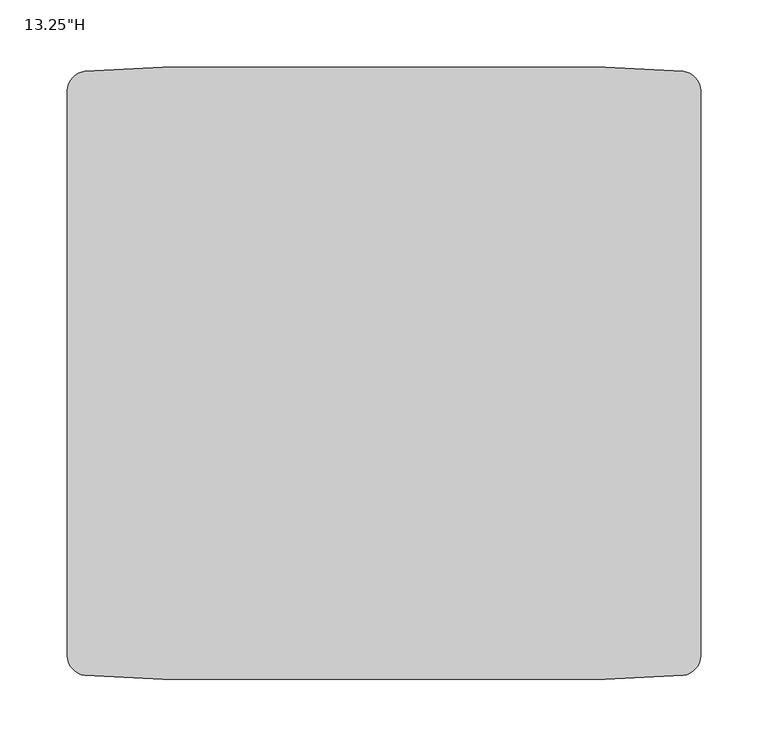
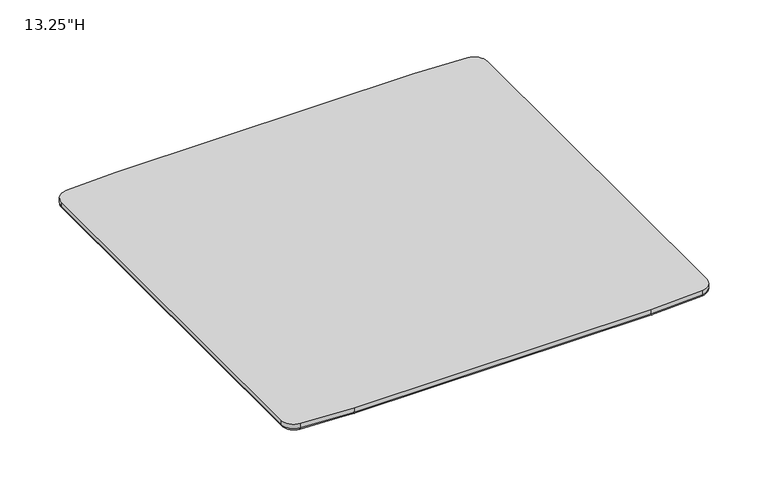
"""IFC4 building model written with IfcOpenShell, lengths in millimetres: furniture geometry."""

from ifc_helpers import new_model, si_unit, point, frame, origin, place, context, project, spatial, circle_curve, ellipse_curve, trimmed, source, transform, mapped, element, save
from ifc_brep_helpers import plane_surface, cylinder_surface, revolved_surface, advanced_brep


def furniture_bad97d5b(model_context):
    return source(origin(), model_context, "Body", "AdvancedBrep", [
        advanced_brep(
        [(221.2844066, -221.1798949, 9.525), (163.8586638, -224.0970059, 9.525), (-163.8586638, -224.0970059, 9.525), (-221.2844066, -221.1798949, 9.525), (-231.9745058, -209.3456024, 9.525), (-231.9745058, 209.3456024, 9.525), (-221.2844066, 221.1798949, 9.525), (-163.8586638, 224.0970059, 9.525), (163.8586638, 224.0970059, 9.525), (221.2844066, 221.1798949, 9.525), (231.9745058, 209.3456024, 9.525), (231.9745058, -209.3456024, 9.525), (163.8586638, -226.6370059, 17.2390594), (221.5417961, -223.70682, 17.2390594), (234.5145058, -209.3456024, 17.2390594), (234.5145058, 209.3456024, 17.2390594), (221.5417961, 223.70682, 17.2390594), (163.8586638, 226.6370059, 17.2390594), (-163.8586638, 226.6370059, 17.2390594), (-221.5417961, 223.70682, 17.2390594), (-234.5145058, 209.3456024, 17.2390594), (-234.5145058, -209.3456024, 17.2390594), (-221.5417961, -223.70682, 17.2390594), (-163.8586638, -226.6370059, 17.2390594), (221.5417961, -223.70682, 12.065), (163.8586638, -226.6370059, 12.065), (234.5145058, -209.3456024, 12.065), (234.5145058, 209.3456024, 12.065), (221.5417961, 223.70682, 12.065), (163.8586638, 226.6370059, 12.065), (-163.8586638, 226.6370059, 12.065), (-221.5417961, 223.70682, 12.065), (-234.5145058, 209.3456024, 12.065), (-234.5145058, -209.3456024, 12.065), (-221.5417961, -223.70682, 12.065), (-163.8586638, -226.6370059, 12.065)],
        [
            (0, 1, circle_curve(frame((163.8586638, 342.5981705, 9.525), z_axis=(0.0, 0.0, -1.0), x_axis=(0.0, -1.0, 0.0)), 566.6951764)),
            (1, 2),
            (2, 3, circle_curve(frame((-163.8586638, 342.5981705, 9.525), z_axis=(0.0, 0.0, -1.0), x_axis=(-0.10133444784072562, -0.9948524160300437, 0.0)), 566.6951764)),
            (3, 4, circle_curve(frame((-220.0789801, -209.3456024, 9.525), z_axis=(0.0, 0.0, -1.0), x_axis=(-1.0, 0.0, 0.0)), 11.8955257)),
            (4, 5),
            (5, 6, circle_curve(frame((-220.0789801, 209.3456024, 9.525), z_axis=(0.0, 0.0, -1.0), x_axis=(-0.10133444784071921, 0.9948524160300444, 0.0)), 11.8955257)),
            (6, 7, circle_curve(frame((-163.8586638, -342.5981705, 9.525), z_axis=(0.0, 0.0, -1.0), x_axis=(0.0, 1.0, 0.0)), 566.6951764)),
            (7, 8),
            (8, 9, circle_curve(frame((163.8586638, -342.5981705, 9.525), z_axis=(0.0, 0.0, -1.0), x_axis=(0.1013344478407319, 0.9948524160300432, 0.0)), 566.6951764)),
            (9, 10, circle_curve(frame((220.0789801, 209.3456024, 9.525), z_axis=(0.0, 0.0, -1.0), x_axis=(1.0, 0.0, 0.0)), 11.8955257)),
            (10, 11),
            (11, 0, circle_curve(frame((220.0789801, -209.3456024, 9.525), z_axis=(0.0, 0.0, -1.0), x_axis=(0.10133444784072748, -0.9948524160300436, 0.0)), 11.8955257)),
            (12, 13, circle_curve(frame((163.8586638, 342.5981705, 17.2390594), z_axis=(0.0, 0.0, 1.0), x_axis=(0.0, -1.0, 0.0)), 569.2351764)),
            (13, 14, circle_curve(frame((220.0789801, -209.3456024, 17.2390594), z_axis=(0.0, 0.0, 1.0), x_axis=(0.10133444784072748, -0.9948524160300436, 0.0)), 14.4355257)),
            (14, 15),
            (15, 16, circle_curve(frame((220.0789801, 209.3456024, 17.2390594), z_axis=(0.0, 0.0, 1.0), x_axis=(1.0, 0.0, 0.0)), 14.4355257)),
            (16, 17, circle_curve(frame((163.8586638, -342.5981705, 17.2390594), z_axis=(0.0, 0.0, 1.0), x_axis=(0.1013344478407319, 0.9948524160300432, 0.0)), 569.2351764)),
            (17, 18),
            (18, 19, circle_curve(frame((-163.8586638, -342.5981705, 17.2390594), z_axis=(0.0, 0.0, 1.0), x_axis=(0.0, 1.0, 0.0)), 569.2351764)),
            (19, 20, circle_curve(frame((-220.0789801, 209.3456024, 17.2390594), z_axis=(0.0, 0.0, 1.0), x_axis=(-0.10133444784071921, 0.9948524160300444, 0.0)), 14.4355257)),
            (20, 21),
            (21, 22, circle_curve(frame((-220.0789801, -209.3456024, 17.2390594), z_axis=(0.0, 0.0, 1.0), x_axis=(-1.0, 0.0, 0.0)), 14.4355257)),
            (22, 23, circle_curve(frame((-163.8586638, 342.5981705, 17.2390594), z_axis=(0.0, 0.0, 1.0), x_axis=(-0.10133444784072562, -0.9948524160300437, 0.0)), 569.2351764)),
            (23, 12),
            (24, 25, circle_curve(frame((163.8586638, 342.5981705, 12.065), z_axis=(0.0, 0.0, -1.0), x_axis=(0.0, -1.0, 0.0)), 569.2351764)),
            (25, 1, circle_curve(frame((163.8586638, -224.0970059, 12.065), z_axis=(1.0, 0.0, 0.0), x_axis=(0.0, 1.0, 0.0)), 2.54)),
            (0, 24, circle_curve(frame((221.2844066, -221.1798949, 12.065), z_axis=(-0.9948524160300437, -0.10133444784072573, 0.0), x_axis=(-0.10133444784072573, 0.9948524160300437, 0.0)), 2.54)),
            (24, 13),
            (12, 25),
            (11, 26, circle_curve(frame((231.9745058, -209.3456024, 12.065), z_axis=(0.0, -1.0, 0.0), x_axis=(-1.0, 0.0, 0.0)), 2.54)),
            (26, 24, circle_curve(frame((220.0789801, -209.3456024, 12.065), z_axis=(0.0, 0.0, -1.0), x_axis=(0.10133444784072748, -0.9948524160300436, 0.0)), 14.4355257)),
            (26, 14),
            (10, 27, circle_curve(frame((231.9745058, 209.3456024, 12.065), z_axis=(0.0, -1.0, 0.0), x_axis=(-1.0, 0.0, 0.0)), 2.54)),
            (27, 26),
            (27, 15),
            (9, 28, circle_curve(frame((221.2844066, 221.1798949, 12.065), z_axis=(0.9948524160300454, -0.10133444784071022, 0.0), x_axis=(-0.10133444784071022, -0.9948524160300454, 0.0)), 2.54)),
            (28, 27, circle_curve(frame((220.0789801, 209.3456024, 12.065), z_axis=(0.0, 0.0, -1.0), x_axis=(1.0, 0.0, 0.0)), 14.4355257)),
            (28, 16),
            (8, 29, circle_curve(frame((163.8586638, 224.0970059, 12.065), z_axis=(1.0, 0.0, 0.0), x_axis=(0.0, -1.0, 0.0)), 2.54)),
            (29, 28, circle_curve(frame((163.8586638, -342.5981705, 12.065), z_axis=(0.0, 0.0, -1.0), x_axis=(0.1013344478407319, 0.9948524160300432, 0.0)), 569.2351764)),
            (29, 17),
            (7, 30, circle_curve(frame((-163.8586638, 224.0970059, 12.065), z_axis=(1.0, 0.0, 0.0), x_axis=(0.0, -1.0, 0.0)), 2.54)),
            (30, 29),
            (30, 18),
            (6, 31, circle_curve(frame((-221.2844066, 221.1798949, 12.065), z_axis=(0.9948524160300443, 0.1013344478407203, 0.0), x_axis=(0.1013344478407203, -0.9948524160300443, 0.0)), 2.54)),
            (31, 30, circle_curve(frame((-163.8586638, -342.5981705, 12.065), z_axis=(0.0, 0.0, -1.0), x_axis=(0.0, 1.0, 0.0)), 569.2351764)),
            (31, 19),
            (5, 32, circle_curve(frame((-231.9745058, 209.3456024, 12.065), z_axis=(0.0, 1.0, 0.0), x_axis=(1.0, 0.0, 0.0)), 2.54)),
            (32, 31, circle_curve(frame((-220.0789801, 209.3456024, 12.065), z_axis=(0.0, 0.0, -1.0), x_axis=(-0.10133444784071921, 0.9948524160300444, 0.0)), 14.4355257)),
            (32, 20),
            (4, 33, circle_curve(frame((-231.9745058, -209.3456024, 12.065), z_axis=(0.0, 1.0, 0.0), x_axis=(1.0, 0.0, 0.0)), 2.54)),
            (33, 32),
            (33, 21),
            (3, 34, circle_curve(frame((-221.2844066, -221.1798949, 12.065), z_axis=(-0.9948524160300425, 0.10133444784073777, 0.0), x_axis=(0.10133444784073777, 0.9948524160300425, 0.0)), 2.54)),
            (34, 33, circle_curve(frame((-220.0789801, -209.3456024, 12.065), z_axis=(0.0, 0.0, -1.0), x_axis=(-1.0, 0.0, 0.0)), 14.4355257)),
            (34, 22),
            (2, 35, circle_curve(frame((-163.8586638, -224.0970059, 12.065), z_axis=(-0.9999999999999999, 0.0, 0.0), x_axis=(0.0, 0.9999999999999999, 0.0)), 2.54)),
            (35, 34, circle_curve(frame((-163.8586638, 342.5981705, 12.065), z_axis=(0.0, 0.0, -1.0), x_axis=(-0.10133444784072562, -0.9948524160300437, 0.0)), 569.2351764)),
            (35, 23),
            (25, 35),
        ],
        [
            plane_surface(frame((-402.8365127, -342.5981705, 9.525), z_axis=(0.0, 0.0, -1.0), x_axis=(0.0, 1.0, 0.0))),
            plane_surface(frame((-402.8365127, -342.5981705, 17.2390594), z_axis=(0.0, 0.0, 1.0), x_axis=(0.0, -1.0, 0.0))),
            revolved_surface(trimmed(ellipse_curve(frame((163.8586638, -224.0970059, 12.065), z_axis=(-1.0, 0.0, 0.0), x_axis=(0.0, 1.0, 0.0)), 2.54, 2.54), [point((163.8586638, -224.0970059, 9.525))], [point((163.8586638, -226.6370059, 12.065))], True, "CARTESIAN"), (163.8586638, 342.5981705, 17.2390594), (0.0, 0.0, 1.0)),
            cylinder_surface(frame((163.8586638, 342.5981705, 17.2390594), z_axis=(0.0, 0.0, 1.0), x_axis=(0.0, -1.0, 0.0)), 569.2351764),
            revolved_surface(trimmed(ellipse_curve(frame((221.2844066, -221.1798949, 12.065), z_axis=(-0.9948524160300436, -0.10133444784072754, 0.0), x_axis=(-0.10133444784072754, 0.9948524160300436, 0.0)), 2.54, 2.54), [point((221.2844066, -221.1798949, 9.525))], [point((221.5417961, -223.70682, 12.065))], True, "CARTESIAN"), (220.0789801, -209.3456024, 17.2390594), (0.0, 0.0, 1.0)),
            cylinder_surface(frame((220.0789801, -209.3456024, 17.2390594), z_axis=(0.0, 0.0, 1.0), x_axis=(0.10133444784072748, -0.9948524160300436, 0.0)), 14.4355257),
            cylinder_surface(frame((231.9745058, -209.3456024, 12.065), z_axis=(0.0, -1.0, 0.0), x_axis=(-1.0, 0.0, 0.0)), 2.54),
            plane_surface(frame((234.5145058, -209.3456024, 12.065), z_axis=(1.0, 0.0, 0.0), x_axis=(0.0, 1.0, 0.0))),
            revolved_surface(trimmed(ellipse_curve(frame((231.9745058, 209.3456024, 12.065), z_axis=(0.0, -1.0, 0.0), x_axis=(-1.0, 0.0, 0.0)), 2.54, 2.54), [point((231.9745058, 209.3456024, 9.525))], [point((234.5145058, 209.3456024, 12.065))], True, "CARTESIAN"), (220.0789801, 209.3456024, 17.2390594), (0.0, 0.0, 1.0)),
            cylinder_surface(frame((220.0789801, 209.3456024, 17.2390594), z_axis=(0.0, 0.0, 1.0), x_axis=(1.0, 0.0, 0.0)), 14.4355257),
            revolved_surface(trimmed(ellipse_curve(frame((221.2844066, 221.1798949, 12.065), z_axis=(0.9948524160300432, -0.10133444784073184, 0.0), x_axis=(-0.10133444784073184, -0.9948524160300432, 0.0)), 2.54, 2.54), [point((221.2844066, 221.1798949, 9.525))], [point((221.5417961, 223.70682, 12.065))], True, "CARTESIAN"), (163.8586638, -342.5981705, 17.2390594), (0.0, 0.0, 1.0)),
            cylinder_surface(frame((163.8586638, -342.5981705, 17.2390594), z_axis=(0.0, 0.0, 1.0), x_axis=(0.1013344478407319, 0.9948524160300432, 0.0)), 569.2351764),
            cylinder_surface(frame((163.8586638, 224.0970059, 12.065), z_axis=(1.0, 0.0, 0.0), x_axis=(0.0, -1.0, 0.0)), 2.54),
            plane_surface(frame((163.8586638, 226.6370059, 12.065), z_axis=(0.0, 1.0, 0.0), x_axis=(-1.0, 0.0, 0.0))),
            revolved_surface(trimmed(ellipse_curve(frame((-163.8586638, 224.0970059, 12.065), z_axis=(1.0, 0.0, 0.0), x_axis=(0.0, -1.0, 0.0)), 2.54, 2.54), [point((-163.8586638, 224.0970059, 9.525))], [point((-163.8586638, 226.6370059, 12.065))], True, "CARTESIAN"), (-163.8586638, -342.5981705, 17.2390594), (0.0, 0.0, 1.0)),
            cylinder_surface(frame((-163.8586638, -342.5981705, 17.2390594), z_axis=(0.0, 0.0, 1.0), x_axis=(0.0, 1.0, 0.0)), 569.2351764),
            revolved_surface(trimmed(ellipse_curve(frame((-221.2844066, 221.1798949, 12.065), z_axis=(0.9948524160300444, 0.10133444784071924, 0.0), x_axis=(0.10133444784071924, -0.9948524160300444, 0.0)), 2.54, 2.54), [point((-221.2844066, 221.1798949, 9.525))], [point((-221.5417961, 223.70682, 12.065))], True, "CARTESIAN"), (-220.0789801, 209.3456024, 17.2390594), (0.0, 0.0, 1.0)),
            cylinder_surface(frame((-220.0789801, 209.3456024, 17.2390594), z_axis=(0.0, 0.0, 1.0), x_axis=(-0.10133444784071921, 0.9948524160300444, 0.0)), 14.4355257),
            cylinder_surface(frame((-231.9745058, 209.3456024, 12.065), z_axis=(0.0, 1.0, 0.0), x_axis=(1.0, 0.0, 0.0)), 2.54),
            plane_surface(frame((-234.5145058, 209.3456024, 12.065), z_axis=(-1.0, 0.0, 0.0), x_axis=(0.0, -1.0, 0.0))),
            revolved_surface(trimmed(ellipse_curve(frame((-231.9745058, -209.3456024, 12.065), z_axis=(0.0, 1.0, 0.0), x_axis=(1.0, 0.0, 0.0)), 2.54, 2.54), [point((-231.9745058, -209.3456024, 9.525))], [point((-234.5145058, -209.3456024, 12.065))], True, "CARTESIAN"), (-220.0789801, -209.3456024, 17.2390594), (0.0, 0.0, 1.0)),
            cylinder_surface(frame((-220.0789801, -209.3456024, 17.2390594), z_axis=(0.0, 0.0, 1.0), x_axis=(-1.0, 0.0, 0.0)), 14.4355257),
            revolved_surface(trimmed(ellipse_curve(frame((-221.2844066, -221.1798949, 12.065), z_axis=(-0.9948524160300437, 0.1013344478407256, 0.0), x_axis=(0.1013344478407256, 0.9948524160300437, 0.0)), 2.54, 2.54), [point((-221.2844066, -221.1798949, 9.525))], [point((-221.5417961, -223.70682, 12.065))], True, "CARTESIAN"), (-163.8586638, 342.5981705, 17.2390594), (0.0, 0.0, 1.0)),
            cylinder_surface(frame((-163.8586638, 342.5981705, 17.2390594), z_axis=(0.0, 0.0, 1.0), x_axis=(-0.10133444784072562, -0.9948524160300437, 0.0)), 569.2351764),
            cylinder_surface(frame((-163.8586638, -224.0970059, 12.065), z_axis=(-1.0, 0.0, 0.0), x_axis=(0.0, 1.0, 0.0)), 2.54),
            plane_surface(frame((-163.8586638, -226.6370059, 12.065), z_axis=(0.0, -1.0, 0.0), x_axis=(1.0, 0.0, 0.0))),
        ],
        [
            (0, [[1, 2, 3, 4, 5, 6, 7, 8, 9, 10, 11, 12]]),
            (1, [[13, 14, 15, 16, 17, 18, 19, 20, 21, 22, 23, 24]]),
            (2, [[25, 26, -1, 27]]),
            (3, [[-25, 28, -13, 29]]),
            (4, [[-27, -12, 30, 31]]),
            (5, [[-28, -31, 32, -14]]),
            (6, [[-30, -11, 33, 34]]),
            (7, [[-32, -34, 35, -15]]),
            (8, [[-33, -10, 36, 37]]),
            (9, [[-35, -37, 38, -16]]),
            (10, [[-36, -9, 39, 40]]),
            (11, [[-38, -40, 41, -17]]),
            (12, [[-39, -8, 42, 43]]),
            (13, [[-41, -43, 44, -18]]),
            (14, [[-42, -7, 45, 46]]),
            (15, [[-44, -46, 47, -19]]),
            (16, [[-45, -6, 48, 49]]),
            (17, [[-47, -49, 50, -20]]),
            (18, [[-48, -5, 51, 52]]),
            (19, [[-50, -52, 53, -21]]),
            (20, [[-51, -4, 54, 55]]),
            (21, [[-53, -55, 56, -22]]),
            (22, [[-54, -3, 57, 58]]),
            (23, [[-56, -58, 59, -23]]),
            (24, [[-26, 60, -57, -2]]),
            (25, [[-29, -24, -59, -60]]),
        ],
    ),
    ])


if __name__ == "__main__":
    model = new_model("IFC4")
    model_context = context("Model", 3, world=origin())
    ifc_project = project(units=[si_unit("LENGTHUNIT", "METRE", prefix="MILLI")], contexts=[model_context])
    site = spatial("IfcSite", under=ifc_project)
    building = spatial("IfcBuilding", under=site)
    placement = place(None, origin())
    furniture_shape = furniture_bad97d5b(model_context)
    element("IfcFurniture", 1, ObjectType="Integra - Coastal Collection - Tide Footstool : 13.25\"H", at=placement, inside=building, context=model_context, shape_type="MappedRepresentation", body=[
        mapped(furniture_shape, transform((0.0, 0.0, 0.0), x_axis=(1.0, 0.0, 0.0), y_axis=(0.0, 1.0, 0.0), z_axis=(0.0, 0.0, 1.0))),
    ])
    save(model, "model.ifc")
